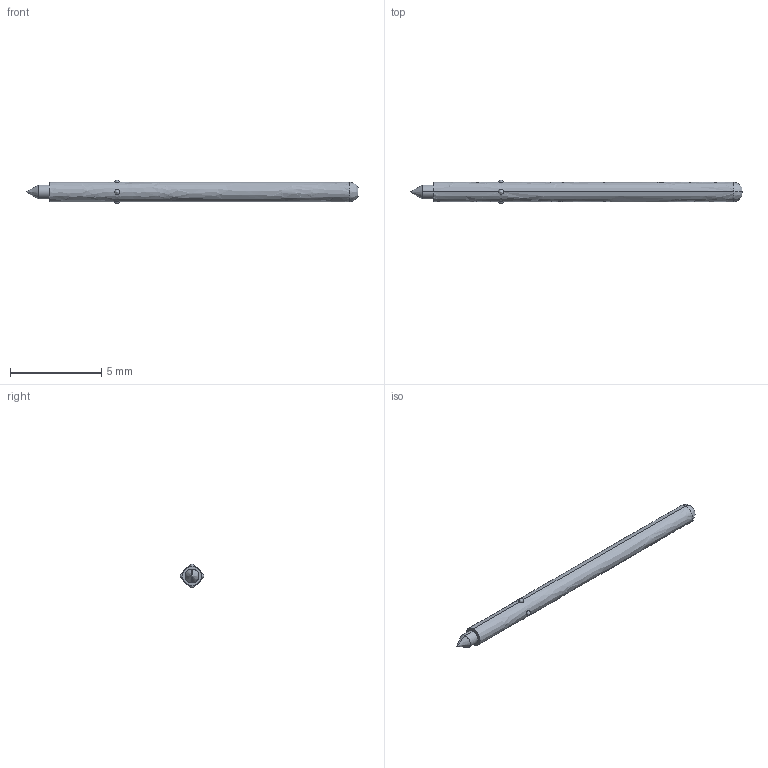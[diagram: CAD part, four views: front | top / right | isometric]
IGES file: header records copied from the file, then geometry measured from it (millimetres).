
Start section: SolidWorks IGES file using analytic representation for surfaces
Global section: file name: O:\PYLON\IGES FILES\P2663\P2663G-1C1S FULL.IGS; native system: SolidWorks 2015; preprocessor: SolidWorks 2015; author: kgolden; date: 171019.095328; units: inch
Bounding box: 18.24 x 1.32 x 1.32 mm (x, y, z)
Surface area: 64.7 mm2 (no closed solid volume)
Topology: 0 solids, 0 shells, 20 faces, 228 edges, 210 vertices
Faces by surface type: revolution 16, bspline 4
